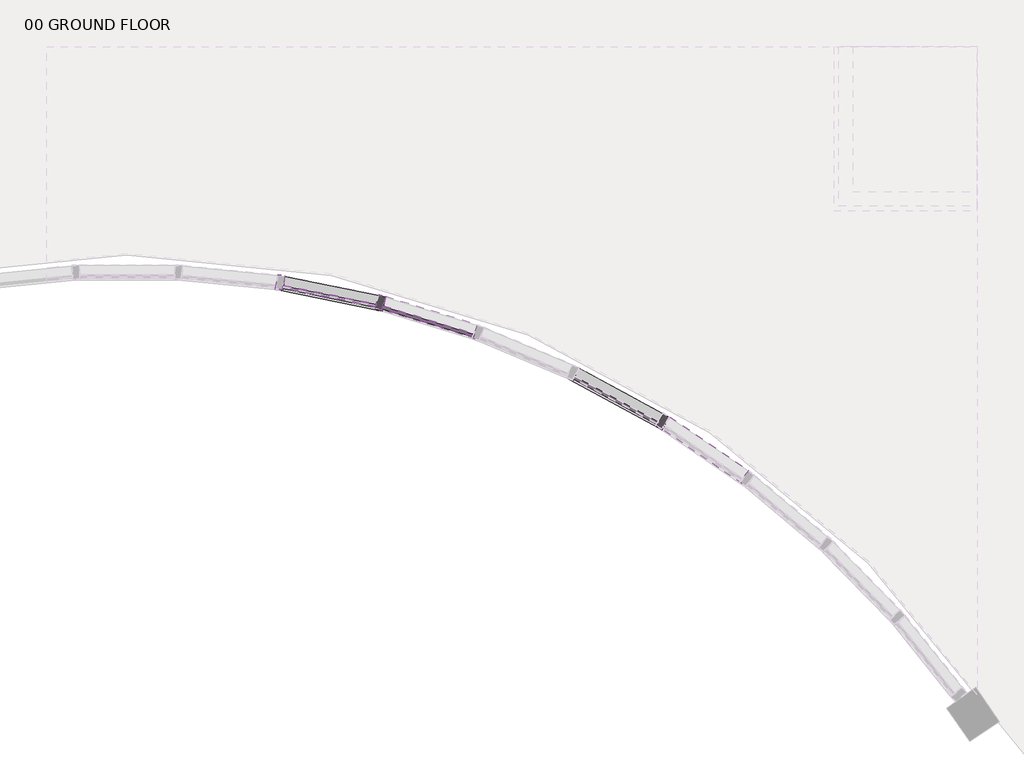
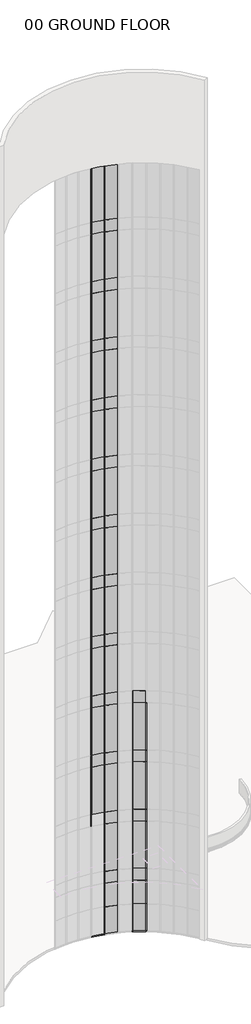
# One storey, part 9 of 33: 60 members, 56 plates.
"""IFC4 building model written with IfcOpenShell, lengths in millimetres."""

from ifc_helpers import new_model, si_unit, origin, place, context, project, spatial, transform, mapped, element, save
from components import member_ab6b85c2, member_7cbddb58, member_d60e8053, member_410c6227, member_810865a4, member_9e61c091, system_panel_su_blue_992d2dbe, system_panel_su_blue_f02faf6b, system_panel_su_blue_144861c6, system_panel_su_blue_654c3fe2, system_panel_su_blue_af244712

model = new_model("IFC4")

# Units and contexts
model_context = context("Model", 3, world=origin())
ifc_project = project(units=[si_unit("LENGTHUNIT", "METRE", prefix="MILLI")], contexts=[model_context])

# Site, building, storey
site = spatial("IfcSite", under=ifc_project)
building = spatial("IfcBuilding", under=site)
storey = spatial("IfcBuildingStorey", under=building, Name="00 GROUND FLOOR", Elevation=0.0)

# Members
placement = place(None, origin())
member_shape = member_ab6b85c2(model_context)
element("IfcMember", 1, ObjectType="Rectangular Mullion : 2.5\" x 5\" rectangular", at=placement, inside=storey, context=model_context, shape_type="MappedRepresentation", body=[
    mapped(member_shape, transform((19795.202262, 2758.2422724, 59436.0), x_axis=(0.0, 0.0, 1.0), y_axis=(0.5622964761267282, 0.8269357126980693, 0.0), z_axis=(-0.8269357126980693, 0.5622964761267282, 0.0))),
])
element("IfcMember", 2, ObjectType="Rectangular Mullion : 2.5\" x 5\" rectangular", at=placement, inside=storey, context=model_context, shape_type="MappedRepresentation", body=[
    mapped(member_shape, transform((17334.5859659, 3803.3208726, 59436.0), x_axis=(0.0, 0.0, 1.0), y_axis=(0.29416346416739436, 0.9557551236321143, 0.0), z_axis=(-0.9557551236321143, 0.29416346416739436, 0.0))),
])
element("IfcMember", 3, ObjectType="Rectangular Mullion : 2.5\" x 5\" rectangular", at=placement, inside=storey, context=model_context, shape_type="MappedRepresentation", body=[
    mapped(member_shape, transform((19741.0478635, 2791.2509673, 0.0), x_axis=(0.0, 0.0, -1.0), y_axis=(0.4773474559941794, 0.878714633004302, 0.0), z_axis=(0.878714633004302, -0.4773474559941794, 0.0))),
])
element("IfcMember", 4, ObjectType="Rectangular Mullion : 2.5\" x 5\" rectangular", at=placement, inside=storey, context=model_context, shape_type="MappedRepresentation", body=[
    mapped(member_shape, transform((17273.11767, 3818.9388564, 0.0), x_axis=(0.0, 0.0, -1.0), y_axis=(0.1977415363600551, 0.9802541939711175, 0.0), z_axis=(0.9802541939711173, -0.19774153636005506, 0.0))),
])
member_2_shape = member_7cbddb58(model_context)
element("IfcMember", 5, ObjectType="Rectangular Mullion : 2.5\" x 5\" rectangular", at=placement, inside=storey, context=model_context, shape_type="MappedRepresentation", body=[
    mapped(member_2_shape, transform((19768.9470531, 2776.0951856, 0.0), x_axis=(-0.8538822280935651, 0.5204662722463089, 0.0), y_axis=(0.5204662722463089, 0.8538822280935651, 0.0), z_axis=(0.0, 0.0, -1.0))),
])
element("IfcMember", 6, ObjectType="Rectangular Mullion : 2.5\" x 5\" rectangular", at=placement, inside=storey, context=model_context, shape_type="MappedRepresentation", body=[
    mapped(member_2_shape, transform((17304.2407407, 3812.6605626, 0.0), x_axis=(-0.9692044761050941, 0.24625735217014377, 0.0), y_axis=(0.24625735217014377, 0.9692044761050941, 0.0), z_axis=(0.0, 0.0, -1.0))),
])
member_3_shape = member_d60e8053(model_context)
element("IfcMember", 7, ObjectType="Rectangular Mullion : 2.5\" x 5\" rectangular", at=placement, inside=storey, context=model_context, shape_type="MappedRepresentation", body=[
    mapped(member_3_shape, transform((19768.9470531, 2776.0951856, 2133.6), x_axis=(-0.8538822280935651, 0.5204662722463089, 0.0), y_axis=(0.5204662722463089, 0.8538822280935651, 0.0), z_axis=(0.0, 0.0, -1.0))),
])
element("IfcMember", 8, ObjectType="Rectangular Mullion : 2.5\" x 5\" rectangular", at=placement, inside=storey, context=model_context, shape_type="MappedRepresentation", body=[
    mapped(member_3_shape, transform((17304.2407407, 3812.6605626, 2133.6), x_axis=(-0.9692044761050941, 0.24625735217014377, 0.0), y_axis=(0.24625735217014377, 0.9692044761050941, 0.0), z_axis=(0.0, 0.0, -1.0))),
])
member_4_shape = member_410c6227(model_context)
element("IfcMember", 9, ObjectType="Rectangular Mullion : 2.5\" x 5\" rectangular", at=placement, inside=storey, context=model_context, shape_type="MappedRepresentation", body=[
    mapped(member_4_shape, transform((19768.9470531, 2776.0951856, 3962.4), x_axis=(-0.8538822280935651, 0.5204662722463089, 0.0), y_axis=(0.5204662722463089, 0.8538822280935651, 0.0), z_axis=(0.0, 0.0, -1.0))),
])
element("IfcMember", 10, ObjectType="Rectangular Mullion : 2.5\" x 5\" rectangular", at=placement, inside=storey, context=model_context, shape_type="MappedRepresentation", body=[
    mapped(member_4_shape, transform((17304.2407407, 3812.6605626, 3962.4), x_axis=(-0.9692044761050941, 0.24625735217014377, 0.0), y_axis=(0.24625735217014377, 0.9692044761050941, 0.0), z_axis=(0.0, 0.0, -1.0))),
])
element("IfcMember", 11, ObjectType="Rectangular Mullion : 2.5\" x 5\" rectangular", at=placement, inside=storey, context=model_context, shape_type="MappedRepresentation", body=[
    mapped(member_4_shape, transform((19768.9470531, 2776.0951856, 8534.4), x_axis=(-0.8538822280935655, 0.5204662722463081, 0.0), y_axis=(0.5204662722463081, 0.8538822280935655, 0.0), z_axis=(0.0, 0.0, -1.0))),
])
element("IfcMember", 12, ObjectType="Rectangular Mullion : 2.5\" x 5\" rectangular", at=placement, inside=storey, context=model_context, shape_type="MappedRepresentation", body=[
    mapped(member_4_shape, transform((17304.2407407, 3812.6605626, 8534.4), x_axis=(-0.9692044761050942, 0.2462573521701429, 0.0), y_axis=(0.2462573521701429, 0.9692044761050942, 0.0), z_axis=(0.0, 0.0, -1.0))),
])
element("IfcMember", 13, ObjectType="Rectangular Mullion : 2.5\" x 5\" rectangular", at=placement, inside=storey, context=model_context, shape_type="MappedRepresentation", body=[
    mapped(member_4_shape, transform((16427.6786042, 3989.4848442, 8534.4), x_axis=(-0.988876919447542, 0.14873613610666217, 0.0), y_axis=(0.14873613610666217, 0.988876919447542, 0.0), z_axis=(0.0, 0.0, -1.0))),
])
element("IfcMember", 14, ObjectType="Rectangular Mullion : 2.5\" x 5\" rectangular", at=placement, inside=storey, context=model_context, shape_type="MappedRepresentation", body=[
    mapped(member_4_shape, transform((19768.9470531, 2776.0951856, 13106.4), x_axis=(-0.8538822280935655, 0.5204662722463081, 0.0), y_axis=(0.5204662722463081, 0.8538822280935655, 0.0), z_axis=(0.0, 0.0, -1.0))),
])
element("IfcMember", 15, ObjectType="Rectangular Mullion : 2.5\" x 5\" rectangular", at=placement, inside=storey, context=model_context, shape_type="MappedRepresentation", body=[
    mapped(member_4_shape, transform((17304.2407407, 3812.6605626, 13106.4), x_axis=(-0.9692044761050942, 0.2462573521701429, 0.0), y_axis=(0.2462573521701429, 0.9692044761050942, 0.0), z_axis=(0.0, 0.0, -1.0))),
])
element("IfcMember", 16, ObjectType="Rectangular Mullion : 2.5\" x 5\" rectangular", at=placement, inside=storey, context=model_context, shape_type="MappedRepresentation", body=[
    mapped(member_4_shape, transform((16427.6786042, 3989.4848442, 13106.4), x_axis=(-0.988876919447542, 0.14873613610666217, 0.0), y_axis=(0.14873613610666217, 0.988876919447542, 0.0), z_axis=(0.0, 0.0, -1.0))),
])
element("IfcMember", 17, ObjectType="Rectangular Mullion : 2.5\" x 5\" rectangular", at=placement, inside=storey, context=model_context, shape_type="MappedRepresentation", body=[
    mapped(member_4_shape, transform((17304.2407407, 3812.6605626, 17678.4), x_axis=(-0.9692044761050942, 0.2462573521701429, 0.0), y_axis=(0.2462573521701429, 0.9692044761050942, 0.0), z_axis=(0.0, 0.0, -1.0))),
])
element("IfcMember", 18, ObjectType="Rectangular Mullion : 2.5\" x 5\" rectangular", at=placement, inside=storey, context=model_context, shape_type="MappedRepresentation", body=[
    mapped(member_4_shape, transform((16427.6786042, 3989.4848442, 17678.4), x_axis=(-0.988876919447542, 0.14873613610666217, 0.0), y_axis=(0.14873613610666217, 0.988876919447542, 0.0), z_axis=(0.0, 0.0, -1.0))),
])
element("IfcMember", 19, ObjectType="Rectangular Mullion : 2.5\" x 5\" rectangular", at=placement, inside=storey, context=model_context, shape_type="MappedRepresentation", body=[
    mapped(member_4_shape, transform((17304.2407407, 3812.6605626, 22250.4), x_axis=(-0.9692044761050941, 0.24625735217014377, 0.0), y_axis=(0.24625735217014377, 0.9692044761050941, 0.0), z_axis=(0.0, 0.0, -1.0))),
])
element("IfcMember", 20, ObjectType="Rectangular Mullion : 2.5\" x 5\" rectangular", at=placement, inside=storey, context=model_context, shape_type="MappedRepresentation", body=[
    mapped(member_4_shape, transform((16427.6786042, 3989.4848442, 22250.4), x_axis=(-0.988876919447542, 0.14873613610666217, 0.0), y_axis=(0.14873613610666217, 0.988876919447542, 0.0), z_axis=(0.0, 0.0, -1.0))),
])
element("IfcMember", 21, ObjectType="Rectangular Mullion : 2.5\" x 5\" rectangular", at=placement, inside=storey, context=model_context, shape_type="MappedRepresentation", body=[
    mapped(member_4_shape, transform((17304.2407407, 3812.6605626, 26822.4), x_axis=(-0.9692044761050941, 0.24625735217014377, 0.0), y_axis=(0.24625735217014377, 0.9692044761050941, 0.0), z_axis=(0.0, 0.0, -1.0))),
])
element("IfcMember", 22, ObjectType="Rectangular Mullion : 2.5\" x 5\" rectangular", at=placement, inside=storey, context=model_context, shape_type="MappedRepresentation", body=[
    mapped(member_4_shape, transform((16427.6786042, 3989.4848442, 26822.4), x_axis=(-0.9888769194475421, 0.1487361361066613, 0.0), y_axis=(0.1487361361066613, 0.9888769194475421, 0.0), z_axis=(0.0, 0.0, -1.0))),
])
element("IfcMember", 23, ObjectType="Rectangular Mullion : 2.5\" x 5\" rectangular", at=placement, inside=storey, context=model_context, shape_type="MappedRepresentation", body=[
    mapped(member_4_shape, transform((17304.2407407, 3812.6605626, 31394.4), x_axis=(-0.9692044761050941, 0.24625735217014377, 0.0), y_axis=(0.24625735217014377, 0.9692044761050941, 0.0), z_axis=(0.0, 0.0, -1.0))),
])
element("IfcMember", 24, ObjectType="Rectangular Mullion : 2.5\" x 5\" rectangular", at=placement, inside=storey, context=model_context, shape_type="MappedRepresentation", body=[
    mapped(member_4_shape, transform((16427.6786042, 3989.4848442, 31394.4), x_axis=(-0.9888769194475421, 0.1487361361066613, 0.0), y_axis=(0.1487361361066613, 0.9888769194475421, 0.0), z_axis=(0.0, 0.0, -1.0))),
])
element("IfcMember", 25, ObjectType="Rectangular Mullion : 2.5\" x 5\" rectangular", at=placement, inside=storey, context=model_context, shape_type="MappedRepresentation", body=[
    mapped(member_4_shape, transform((17304.2407407, 3812.6605626, 35966.4), x_axis=(-0.9692044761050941, 0.24625735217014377, 0.0), y_axis=(0.24625735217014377, 0.9692044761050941, 0.0), z_axis=(0.0, 0.0, -1.0))),
])
element("IfcMember", 26, ObjectType="Rectangular Mullion : 2.5\" x 5\" rectangular", at=placement, inside=storey, context=model_context, shape_type="MappedRepresentation", body=[
    mapped(member_4_shape, transform((16427.6786042, 3989.4848442, 35966.4), x_axis=(-0.9888769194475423, 0.14873613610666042, 0.0), y_axis=(0.14873613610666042, 0.9888769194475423, 0.0), z_axis=(0.0, 0.0, -1.0))),
])
element("IfcMember", 27, ObjectType="Rectangular Mullion : 2.5\" x 5\" rectangular", at=placement, inside=storey, context=model_context, shape_type="MappedRepresentation", body=[
    mapped(member_4_shape, transform((17304.2407407, 3812.6605626, 40538.4), x_axis=(-0.9692044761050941, 0.24625735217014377, 0.0), y_axis=(0.24625735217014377, 0.9692044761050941, 0.0), z_axis=(0.0, 0.0, -1.0))),
])
element("IfcMember", 28, ObjectType="Rectangular Mullion : 2.5\" x 5\" rectangular", at=placement, inside=storey, context=model_context, shape_type="MappedRepresentation", body=[
    mapped(member_4_shape, transform((16427.6786042, 3989.4848442, 40538.4), x_axis=(-0.9888769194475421, 0.1487361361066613, 0.0), y_axis=(0.1487361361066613, 0.9888769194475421, 0.0), z_axis=(0.0, 0.0, -1.0))),
])
element("IfcMember", 29, ObjectType="Rectangular Mullion : 2.5\" x 5\" rectangular", at=placement, inside=storey, context=model_context, shape_type="MappedRepresentation", body=[
    mapped(member_4_shape, transform((17304.2407407, 3812.6605626, 45110.4), x_axis=(-0.9692044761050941, 0.24625735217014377, 0.0), y_axis=(0.24625735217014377, 0.9692044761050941, 0.0), z_axis=(0.0, 0.0, -1.0))),
])
element("IfcMember", 30, ObjectType="Rectangular Mullion : 2.5\" x 5\" rectangular", at=placement, inside=storey, context=model_context, shape_type="MappedRepresentation", body=[
    mapped(member_4_shape, transform((16427.6786042, 3989.4848442, 45110.4), x_axis=(-0.988876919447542, 0.14873613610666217, 0.0), y_axis=(0.14873613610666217, 0.988876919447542, 0.0), z_axis=(0.0, 0.0, -1.0))),
])
element("IfcMember", 31, ObjectType="Rectangular Mullion : 2.5\" x 5\" rectangular", at=placement, inside=storey, context=model_context, shape_type="MappedRepresentation", body=[
    mapped(member_4_shape, transform((17304.2407407, 3812.6605626, 49682.4), x_axis=(-0.9692044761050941, 0.24625735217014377, 0.0), y_axis=(0.24625735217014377, 0.9692044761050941, 0.0), z_axis=(0.0, 0.0, -1.0))),
])
element("IfcMember", 32, ObjectType="Rectangular Mullion : 2.5\" x 5\" rectangular", at=placement, inside=storey, context=model_context, shape_type="MappedRepresentation", body=[
    mapped(member_4_shape, transform((16427.6786042, 3989.4848442, 49682.4), x_axis=(-0.988876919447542, 0.14873613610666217, 0.0), y_axis=(0.14873613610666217, 0.988876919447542, 0.0), z_axis=(0.0, 0.0, -1.0))),
])
element("IfcMember", 33, ObjectType="Rectangular Mullion : 2.5\" x 5\" rectangular", at=placement, inside=storey, context=model_context, shape_type="MappedRepresentation", body=[
    mapped(member_4_shape, transform((17304.2407407, 3812.6605626, 54254.4), x_axis=(-0.9692044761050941, 0.24625735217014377, 0.0), y_axis=(0.24625735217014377, 0.9692044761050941, 0.0), z_axis=(0.0, 0.0, -1.0))),
])
element("IfcMember", 34, ObjectType="Rectangular Mullion : 2.5\" x 5\" rectangular", at=placement, inside=storey, context=model_context, shape_type="MappedRepresentation", body=[
    mapped(member_4_shape, transform((16427.6786042, 3989.4848442, 54254.4), x_axis=(-0.988876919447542, 0.14873613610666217, 0.0), y_axis=(0.14873613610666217, 0.988876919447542, 0.0), z_axis=(0.0, 0.0, -1.0))),
])
member_5_shape = member_810865a4(model_context)
element("IfcMember", 35, ObjectType="Rectangular Mullion : 2.5\" x 5\" rectangular", at=placement, inside=storey, context=model_context, shape_type="MappedRepresentation", body=[
    mapped(member_5_shape, transform((19768.9470531, 2776.0951856, 4876.8), x_axis=(-0.8538822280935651, 0.5204662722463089, 0.0), y_axis=(0.5204662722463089, 0.8538822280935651, 0.0), z_axis=(0.0, 0.0, -1.0))),
])
element("IfcMember", 36, ObjectType="Rectangular Mullion : 2.5\" x 5\" rectangular", at=placement, inside=storey, context=model_context, shape_type="MappedRepresentation", body=[
    mapped(member_5_shape, transform((17304.2407407, 3812.6605626, 4876.8), x_axis=(-0.9692044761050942, 0.2462573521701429, 0.0), y_axis=(0.2462573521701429, 0.9692044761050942, 0.0), z_axis=(0.0, 0.0, -1.0))),
])
element("IfcMember", 37, ObjectType="Rectangular Mullion : 2.5\" x 5\" rectangular", at=placement, inside=storey, context=model_context, shape_type="MappedRepresentation", body=[
    mapped(member_5_shape, transform((19768.9470531, 2776.0951856, 9448.8), x_axis=(-0.8538822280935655, 0.5204662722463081, 0.0), y_axis=(0.5204662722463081, 0.8538822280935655, 0.0), z_axis=(0.0, 0.0, -1.0))),
])
element("IfcMember", 38, ObjectType="Rectangular Mullion : 2.5\" x 5\" rectangular", at=placement, inside=storey, context=model_context, shape_type="MappedRepresentation", body=[
    mapped(member_5_shape, transform((17304.2407407, 3812.6605626, 9448.8), x_axis=(-0.9692044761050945, 0.24625735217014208, 0.0), y_axis=(0.24625735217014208, 0.9692044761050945, 0.0), z_axis=(0.0, 0.0, -1.0))),
])
element("IfcMember", 39, ObjectType="Rectangular Mullion : 2.5\" x 5\" rectangular", at=placement, inside=storey, context=model_context, shape_type="MappedRepresentation", body=[
    mapped(member_5_shape, transform((16427.6786042, 3989.4848442, 9448.8), x_axis=(-0.988876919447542, 0.14873613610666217, 0.0), y_axis=(0.14873613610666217, 0.988876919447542, 0.0), z_axis=(0.0, 0.0, -1.0))),
])
element("IfcMember", 40, ObjectType="Rectangular Mullion : 2.5\" x 5\" rectangular", at=placement, inside=storey, context=model_context, shape_type="MappedRepresentation", body=[
    mapped(member_5_shape, transform((19768.9470531, 2776.0951856, 14020.8), x_axis=(-0.8538822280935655, 0.5204662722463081, 0.0), y_axis=(0.5204662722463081, 0.8538822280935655, 0.0), z_axis=(0.0, 0.0, -1.0))),
])
element("IfcMember", 41, ObjectType="Rectangular Mullion : 2.5\" x 5\" rectangular", at=placement, inside=storey, context=model_context, shape_type="MappedRepresentation", body=[
    mapped(member_5_shape, transform((17304.2407407, 3812.6605626, 14020.8), x_axis=(-0.9692044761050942, 0.2462573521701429, 0.0), y_axis=(0.2462573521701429, 0.9692044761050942, 0.0), z_axis=(0.0, 0.0, -1.0))),
])
element("IfcMember", 42, ObjectType="Rectangular Mullion : 2.5\" x 5\" rectangular", at=placement, inside=storey, context=model_context, shape_type="MappedRepresentation", body=[
    mapped(member_5_shape, transform((16427.6786042, 3989.4848442, 14020.8), x_axis=(-0.988876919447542, 0.14873613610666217, 0.0), y_axis=(0.14873613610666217, 0.988876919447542, 0.0), z_axis=(0.0, 0.0, -1.0))),
])
element("IfcMember", 43, ObjectType="Rectangular Mullion : 2.5\" x 5\" rectangular", at=placement, inside=storey, context=model_context, shape_type="MappedRepresentation", body=[
    mapped(member_5_shape, transform((17304.2407407, 3812.6605626, 18592.8), x_axis=(-0.9692044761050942, 0.2462573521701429, 0.0), y_axis=(0.2462573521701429, 0.9692044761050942, 0.0), z_axis=(0.0, 0.0, -1.0))),
])
element("IfcMember", 44, ObjectType="Rectangular Mullion : 2.5\" x 5\" rectangular", at=placement, inside=storey, context=model_context, shape_type="MappedRepresentation", body=[
    mapped(member_5_shape, transform((16427.6786042, 3989.4848442, 18592.8), x_axis=(-0.988876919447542, 0.14873613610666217, 0.0), y_axis=(0.14873613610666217, 0.988876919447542, 0.0), z_axis=(0.0, 0.0, -1.0))),
])
element("IfcMember", 45, ObjectType="Rectangular Mullion : 2.5\" x 5\" rectangular", at=placement, inside=storey, context=model_context, shape_type="MappedRepresentation", body=[
    mapped(member_5_shape, transform((17304.2407407, 3812.6605626, 23164.8), x_axis=(-0.9692044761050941, 0.24625735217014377, 0.0), y_axis=(0.24625735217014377, 0.9692044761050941, 0.0), z_axis=(0.0, 0.0, -1.0))),
])
element("IfcMember", 46, ObjectType="Rectangular Mullion : 2.5\" x 5\" rectangular", at=placement, inside=storey, context=model_context, shape_type="MappedRepresentation", body=[
    mapped(member_5_shape, transform((16427.6786042, 3989.4848442, 23164.8), x_axis=(-0.9888769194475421, 0.1487361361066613, 0.0), y_axis=(0.1487361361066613, 0.9888769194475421, 0.0), z_axis=(0.0, 0.0, -1.0))),
])
element("IfcMember", 47, ObjectType="Rectangular Mullion : 2.5\" x 5\" rectangular", at=placement, inside=storey, context=model_context, shape_type="MappedRepresentation", body=[
    mapped(member_5_shape, transform((17304.2407407, 3812.6605626, 27736.8), x_axis=(-0.9692044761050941, 0.24625735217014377, 0.0), y_axis=(0.24625735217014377, 0.9692044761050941, 0.0), z_axis=(0.0, 0.0, -1.0))),
])
element("IfcMember", 48, ObjectType="Rectangular Mullion : 2.5\" x 5\" rectangular", at=placement, inside=storey, context=model_context, shape_type="MappedRepresentation", body=[
    mapped(member_5_shape, transform((16427.6786042, 3989.4848442, 27736.8), x_axis=(-0.9888769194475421, 0.1487361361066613, 0.0), y_axis=(0.1487361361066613, 0.9888769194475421, 0.0), z_axis=(0.0, 0.0, -1.0))),
])
element("IfcMember", 49, ObjectType="Rectangular Mullion : 2.5\" x 5\" rectangular", at=placement, inside=storey, context=model_context, shape_type="MappedRepresentation", body=[
    mapped(member_5_shape, transform((17304.2407407, 3812.6605626, 32308.8), x_axis=(-0.9692044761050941, 0.24625735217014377, 0.0), y_axis=(0.24625735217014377, 0.9692044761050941, 0.0), z_axis=(0.0, 0.0, -1.0))),
])
element("IfcMember", 50, ObjectType="Rectangular Mullion : 2.5\" x 5\" rectangular", at=placement, inside=storey, context=model_context, shape_type="MappedRepresentation", body=[
    mapped(member_5_shape, transform((16427.6786042, 3989.4848442, 32308.8), x_axis=(-0.9888769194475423, 0.14873613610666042, 0.0), y_axis=(0.14873613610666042, 0.9888769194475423, 0.0), z_axis=(0.0, 0.0, -1.0))),
])
element("IfcMember", 51, ObjectType="Rectangular Mullion : 2.5\" x 5\" rectangular", at=placement, inside=storey, context=model_context, shape_type="MappedRepresentation", body=[
    mapped(member_5_shape, transform((17304.2407407, 3812.6605626, 36880.8), x_axis=(-0.9692044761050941, 0.24625735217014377, 0.0), y_axis=(0.24625735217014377, 0.9692044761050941, 0.0), z_axis=(0.0, 0.0, -1.0))),
])
element("IfcMember", 52, ObjectType="Rectangular Mullion : 2.5\" x 5\" rectangular", at=placement, inside=storey, context=model_context, shape_type="MappedRepresentation", body=[
    mapped(member_5_shape, transform((16427.6786042, 3989.4848442, 36880.8), x_axis=(-0.9888769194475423, 0.14873613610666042, 0.0), y_axis=(0.14873613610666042, 0.9888769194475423, 0.0), z_axis=(0.0, 0.0, -1.0))),
])
element("IfcMember", 53, ObjectType="Rectangular Mullion : 2.5\" x 5\" rectangular", at=placement, inside=storey, context=model_context, shape_type="MappedRepresentation", body=[
    mapped(member_5_shape, transform((17304.2407407, 3812.6605626, 41452.8), x_axis=(-0.9692044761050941, 0.24625735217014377, 0.0), y_axis=(0.24625735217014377, 0.9692044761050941, 0.0), z_axis=(0.0, 0.0, -1.0))),
])
element("IfcMember", 54, ObjectType="Rectangular Mullion : 2.5\" x 5\" rectangular", at=placement, inside=storey, context=model_context, shape_type="MappedRepresentation", body=[
    mapped(member_5_shape, transform((16427.6786042, 3989.4848442, 41452.8), x_axis=(-0.988876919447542, 0.14873613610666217, 0.0), y_axis=(0.14873613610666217, 0.988876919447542, 0.0), z_axis=(0.0, 0.0, -1.0))),
])
element("IfcMember", 55, ObjectType="Rectangular Mullion : 2.5\" x 5\" rectangular", at=placement, inside=storey, context=model_context, shape_type="MappedRepresentation", body=[
    mapped(member_5_shape, transform((17304.2407407, 3812.6605626, 46024.8), x_axis=(-0.9692044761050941, 0.24625735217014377, 0.0), y_axis=(0.24625735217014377, 0.9692044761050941, 0.0), z_axis=(0.0, 0.0, -1.0))),
])
element("IfcMember", 56, ObjectType="Rectangular Mullion : 2.5\" x 5\" rectangular", at=placement, inside=storey, context=model_context, shape_type="MappedRepresentation", body=[
    mapped(member_5_shape, transform((16427.6786042, 3989.4848442, 46024.8), x_axis=(-0.988876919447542, 0.14873613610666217, 0.0), y_axis=(0.14873613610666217, 0.988876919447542, 0.0), z_axis=(0.0, 0.0, -1.0))),
])
element("IfcMember", 57, ObjectType="Rectangular Mullion : 2.5\" x 5\" rectangular", at=placement, inside=storey, context=model_context, shape_type="MappedRepresentation", body=[
    mapped(member_5_shape, transform((17304.2407407, 3812.6605626, 50596.8), x_axis=(-0.9692044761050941, 0.24625735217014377, 0.0), y_axis=(0.24625735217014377, 0.9692044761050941, 0.0), z_axis=(0.0, 0.0, -1.0))),
])
element("IfcMember", 58, ObjectType="Rectangular Mullion : 2.5\" x 5\" rectangular", at=placement, inside=storey, context=model_context, shape_type="MappedRepresentation", body=[
    mapped(member_5_shape, transform((16427.6786042, 3989.4848442, 50596.8), x_axis=(-0.988876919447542, 0.14873613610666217, 0.0), y_axis=(0.14873613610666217, 0.988876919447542, 0.0), z_axis=(0.0, 0.0, -1.0))),
])
member_6_shape = member_9e61c091(model_context)
element("IfcMember", 59, ObjectType="Rectangular Mullion : 2.5\" x 5\" rectangular", at=placement, inside=storey, context=model_context, shape_type="MappedRepresentation", body=[
    mapped(member_6_shape, transform((17304.2407407, 3812.6605626, 55168.8), x_axis=(-0.9692044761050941, 0.24625735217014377, 0.0), y_axis=(0.24625735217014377, 0.9692044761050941, 0.0), z_axis=(0.0, 0.0, -1.0))),
])
element("IfcMember", 60, ObjectType="Rectangular Mullion : 2.5\" x 5\" rectangular", at=placement, inside=storey, context=model_context, shape_type="MappedRepresentation", body=[
    mapped(member_6_shape, transform((16427.6786042, 3989.4848442, 55168.8), x_axis=(-0.9888769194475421, 0.1487361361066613, 0.0), y_axis=(0.1487361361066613, 0.9888769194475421, 0.0), z_axis=(0.0, 0.0, -1.0))),
])

# Plates
system_panel_su_blue_shape = system_panel_su_blue_992d2dbe(model_context)
element("IfcPlate", 61, ObjectType="System Panel : SU_BLUE", at=placement, inside=storey, context=model_context, shape_type="MappedRepresentation", body=[
    mapped(system_panel_su_blue_shape, transform((19376.0652982, 2989.5218194, 63.5), x_axis=(-0.8787146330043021, 0.47734745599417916, 0.0), y_axis=(-0.47734745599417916, -0.8787146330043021, 0.0), z_axis=(0.0, 0.0, 1.0))),
])
element("IfcPlate", 62, ObjectType="System Panel : SU_BLUE", at=placement, inside=storey, context=model_context, shape_type="MappedRepresentation", body=[
    mapped(system_panel_su_blue_shape, transform((17731.5680392, 3681.1372515, 63.5), x_axis=(-0.9557551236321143, 0.2941634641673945, 0.0), y_axis=(-0.2941634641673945, -0.9557551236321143, 0.0), z_axis=(0.0, 0.0, 1.0))),
])
system_panel_su_blue_2_shape = system_panel_su_blue_f02faf6b(model_context)
element("IfcPlate", 63, ObjectType="System Panel : SU_BLUE", at=placement, inside=storey, context=model_context, shape_type="MappedRepresentation", body=[
    mapped(system_panel_su_blue_2_shape, transform((19376.0652982, 2989.5218194, 2133.6), x_axis=(-0.8787146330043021, 0.47734745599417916, 0.0), y_axis=(-0.47734745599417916, -0.8787146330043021, 0.0), z_axis=(0.0, 0.0, 1.0))),
])
element("IfcPlate", 64, ObjectType="System Panel : SU_BLUE", at=placement, inside=storey, context=model_context, shape_type="MappedRepresentation", body=[
    mapped(system_panel_su_blue_2_shape, transform((17731.5680392, 3681.1372515, 2133.6), x_axis=(-0.9557551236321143, 0.2941634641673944, 0.0), y_axis=(-0.2941634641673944, -0.9557551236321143, 0.0), z_axis=(0.0, 0.0, 1.0))),
])
system_panel_su_blue_3_shape = system_panel_su_blue_144861c6(model_context)
element("IfcPlate", 65, ObjectType="System Panel : SU_BLUE", at=placement, inside=storey, context=model_context, shape_type="MappedRepresentation", body=[
    mapped(system_panel_su_blue_3_shape, transform((19376.0652982, 2989.5218194, 3962.4), x_axis=(-0.8787146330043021, 0.47734745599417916, 0.0), y_axis=(-0.47734745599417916, -0.8787146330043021, 0.0), z_axis=(0.0, 0.0, 1.0))),
])
element("IfcPlate", 66, ObjectType="System Panel : SU_BLUE", at=placement, inside=storey, context=model_context, shape_type="MappedRepresentation", body=[
    mapped(system_panel_su_blue_3_shape, transform((17731.5680392, 3681.1372515, 3962.4), x_axis=(-0.9557551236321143, 0.2941634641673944, 0.0), y_axis=(-0.2941634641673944, -0.9557551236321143, 0.0), z_axis=(0.0, 0.0, 1.0))),
])
element("IfcPlate", 67, ObjectType="System Panel : SU_BLUE", at=placement, inside=storey, context=model_context, shape_type="MappedRepresentation", body=[
    mapped(system_panel_su_blue_3_shape, transform((19376.0652982, 2989.5218194, 8534.4), x_axis=(-0.8787146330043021, 0.47734745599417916, 0.0), y_axis=(-0.47734745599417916, -0.8787146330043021, 0.0), z_axis=(0.0, 0.0, 1.0))),
])
element("IfcPlate", 68, ObjectType="System Panel : SU_BLUE", at=placement, inside=storey, context=model_context, shape_type="MappedRepresentation", body=[
    mapped(system_panel_su_blue_3_shape, transform((17731.5680392, 3681.1372515, 8534.4), x_axis=(-0.9557551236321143, 0.2941634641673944, 0.0), y_axis=(-0.2941634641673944, -0.9557551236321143, 0.0), z_axis=(0.0, 0.0, 1.0))),
])
element("IfcPlate", 69, ObjectType="System Panel : SU_BLUE", at=placement, inside=storey, context=model_context, shape_type="MappedRepresentation", body=[
    mapped(system_panel_su_blue_3_shape, transform((19376.0652982, 2989.5218194, 13106.4), x_axis=(-0.8787146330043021, 0.47734745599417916, 0.0), y_axis=(-0.47734745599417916, -0.8787146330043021, 0.0), z_axis=(0.0, 0.0, 1.0))),
])
element("IfcPlate", 70, ObjectType="System Panel : SU_BLUE", at=placement, inside=storey, context=model_context, shape_type="MappedRepresentation", body=[
    mapped(system_panel_su_blue_3_shape, transform((17731.5680392, 3681.1372515, 13106.4), x_axis=(-0.9557551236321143, 0.2941634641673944, 0.0), y_axis=(-0.2941634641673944, -0.9557551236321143, 0.0), z_axis=(0.0, 0.0, 1.0))),
])
element("IfcPlate", 71, ObjectType="System Panel : SU_BLUE", at=placement, inside=storey, context=model_context, shape_type="MappedRepresentation", body=[
    mapped(system_panel_su_blue_3_shape, transform((16865.9596724, 3901.0727034, 13106.4), x_axis=(-0.9802541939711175, 0.19774153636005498, 0.0), y_axis=(-0.19774153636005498, -0.9802541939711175, 0.0), z_axis=(0.0, 0.0, 1.0))),
])
element("IfcPlate", 72, ObjectType="System Panel : SU_BLUE", at=placement, inside=storey, context=model_context, shape_type="MappedRepresentation", body=[
    mapped(system_panel_su_blue_3_shape, transform((19376.0652982, 2989.5218194, 17678.4), x_axis=(-0.8787146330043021, 0.47734745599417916, 0.0), y_axis=(-0.47734745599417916, -0.8787146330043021, 0.0), z_axis=(0.0, 0.0, 1.0))),
])
element("IfcPlate", 73, ObjectType="System Panel : SU_BLUE", at=placement, inside=storey, context=model_context, shape_type="MappedRepresentation", body=[
    mapped(system_panel_su_blue_3_shape, transform((17731.5680392, 3681.1372515, 17678.4), x_axis=(-0.9557551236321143, 0.2941634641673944, 0.0), y_axis=(-0.2941634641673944, -0.9557551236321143, 0.0), z_axis=(0.0, 0.0, 1.0))),
])
element("IfcPlate", 74, ObjectType="System Panel : SU_BLUE", at=placement, inside=storey, context=model_context, shape_type="MappedRepresentation", body=[
    mapped(system_panel_su_blue_3_shape, transform((16865.9596724, 3901.0727034, 17678.4), x_axis=(-0.9802541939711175, 0.19774153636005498, 0.0), y_axis=(-0.19774153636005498, -0.9802541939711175, 0.0), z_axis=(0.0, 0.0, 1.0))),
])
element("IfcPlate", 75, ObjectType="System Panel : SU_BLUE", at=placement, inside=storey, context=model_context, shape_type="MappedRepresentation", body=[
    mapped(system_panel_su_blue_3_shape, transform((17731.5680392, 3681.1372515, 22250.4), x_axis=(-0.9557551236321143, 0.2941634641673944, 0.0), y_axis=(-0.2941634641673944, -0.9557551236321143, 0.0), z_axis=(0.0, 0.0, 1.0))),
])
element("IfcPlate", 76, ObjectType="System Panel : SU_BLUE", at=placement, inside=storey, context=model_context, shape_type="MappedRepresentation", body=[
    mapped(system_panel_su_blue_3_shape, transform((16865.9596724, 3901.0727034, 22250.4), x_axis=(-0.9802541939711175, 0.19774153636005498, 0.0), y_axis=(-0.19774153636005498, -0.9802541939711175, 0.0), z_axis=(0.0, 0.0, 1.0))),
])
element("IfcPlate", 77, ObjectType="System Panel : SU_BLUE", at=placement, inside=storey, context=model_context, shape_type="MappedRepresentation", body=[
    mapped(system_panel_su_blue_3_shape, transform((17731.5680392, 3681.1372515, 26822.4), x_axis=(-0.9557551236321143, 0.2941634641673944, 0.0), y_axis=(-0.2941634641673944, -0.9557551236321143, 0.0), z_axis=(0.0, 0.0, 1.0))),
])
element("IfcPlate", 78, ObjectType="System Panel : SU_BLUE", at=placement, inside=storey, context=model_context, shape_type="MappedRepresentation", body=[
    mapped(system_panel_su_blue_3_shape, transform((16865.9596724, 3901.0727034, 26822.4), x_axis=(-0.9802541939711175, 0.19774153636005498, 0.0), y_axis=(-0.19774153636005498, -0.9802541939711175, 0.0), z_axis=(0.0, 0.0, 1.0))),
])
element("IfcPlate", 79, ObjectType="System Panel : SU_BLUE", at=placement, inside=storey, context=model_context, shape_type="MappedRepresentation", body=[
    mapped(system_panel_su_blue_3_shape, transform((17731.5680392, 3681.1372515, 31394.4), x_axis=(-0.9557551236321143, 0.2941634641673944, 0.0), y_axis=(-0.2941634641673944, -0.9557551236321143, 0.0), z_axis=(0.0, 0.0, 1.0))),
])
element("IfcPlate", 80, ObjectType="System Panel : SU_BLUE", at=placement, inside=storey, context=model_context, shape_type="MappedRepresentation", body=[
    mapped(system_panel_su_blue_3_shape, transform((16865.9596724, 3901.0727034, 31394.4), x_axis=(-0.9802541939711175, 0.19774153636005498, 0.0), y_axis=(-0.19774153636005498, -0.9802541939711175, 0.0), z_axis=(0.0, 0.0, 1.0))),
])
element("IfcPlate", 81, ObjectType="System Panel : SU_BLUE", at=placement, inside=storey, context=model_context, shape_type="MappedRepresentation", body=[
    mapped(system_panel_su_blue_3_shape, transform((17731.5680392, 3681.1372515, 35966.4), x_axis=(-0.9557551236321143, 0.2941634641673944, 0.0), y_axis=(-0.2941634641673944, -0.9557551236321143, 0.0), z_axis=(0.0, 0.0, 1.0))),
])
element("IfcPlate", 82, ObjectType="System Panel : SU_BLUE", at=placement, inside=storey, context=model_context, shape_type="MappedRepresentation", body=[
    mapped(system_panel_su_blue_3_shape, transform((16865.9596724, 3901.0727034, 35966.4), x_axis=(-0.9802541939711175, 0.19774153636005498, 0.0), y_axis=(-0.19774153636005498, -0.9802541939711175, 0.0), z_axis=(0.0, 0.0, 1.0))),
])
element("IfcPlate", 83, ObjectType="System Panel : SU_BLUE", at=placement, inside=storey, context=model_context, shape_type="MappedRepresentation", body=[
    mapped(system_panel_su_blue_3_shape, transform((17731.5680392, 3681.1372515, 40538.4), x_axis=(-0.9557551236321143, 0.2941634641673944, 0.0), y_axis=(-0.2941634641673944, -0.9557551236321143, 0.0), z_axis=(0.0, 0.0, 1.0))),
])
element("IfcPlate", 84, ObjectType="System Panel : SU_BLUE", at=placement, inside=storey, context=model_context, shape_type="MappedRepresentation", body=[
    mapped(system_panel_su_blue_3_shape, transform((16865.9596724, 3901.0727034, 40538.4), x_axis=(-0.9802541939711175, 0.19774153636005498, 0.0), y_axis=(-0.19774153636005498, -0.9802541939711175, 0.0), z_axis=(0.0, 0.0, 1.0))),
])
element("IfcPlate", 85, ObjectType="System Panel : SU_BLUE", at=placement, inside=storey, context=model_context, shape_type="MappedRepresentation", body=[
    mapped(system_panel_su_blue_3_shape, transform((17731.5680392, 3681.1372515, 45110.4), x_axis=(-0.9557551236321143, 0.2941634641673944, 0.0), y_axis=(-0.2941634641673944, -0.9557551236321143, 0.0), z_axis=(0.0, 0.0, 1.0))),
])
element("IfcPlate", 86, ObjectType="System Panel : SU_BLUE", at=placement, inside=storey, context=model_context, shape_type="MappedRepresentation", body=[
    mapped(system_panel_su_blue_3_shape, transform((16865.9596724, 3901.0727034, 45110.4), x_axis=(-0.9802541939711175, 0.19774153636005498, 0.0), y_axis=(-0.19774153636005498, -0.9802541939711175, 0.0), z_axis=(0.0, 0.0, 1.0))),
])
element("IfcPlate", 87, ObjectType="System Panel : SU_BLUE", at=placement, inside=storey, context=model_context, shape_type="MappedRepresentation", body=[
    mapped(system_panel_su_blue_3_shape, transform((17731.5680392, 3681.1372515, 49682.4), x_axis=(-0.9557551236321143, 0.2941634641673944, 0.0), y_axis=(-0.2941634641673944, -0.9557551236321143, 0.0), z_axis=(0.0, 0.0, 1.0))),
])
element("IfcPlate", 88, ObjectType="System Panel : SU_BLUE", at=placement, inside=storey, context=model_context, shape_type="MappedRepresentation", body=[
    mapped(system_panel_su_blue_3_shape, transform((16865.9596724, 3901.0727034, 49682.4), x_axis=(-0.9802541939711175, 0.19774153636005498, 0.0), y_axis=(-0.19774153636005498, -0.9802541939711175, 0.0), z_axis=(0.0, 0.0, 1.0))),
])
element("IfcPlate", 89, ObjectType="System Panel : SU_BLUE", at=placement, inside=storey, context=model_context, shape_type="MappedRepresentation", body=[
    mapped(system_panel_su_blue_3_shape, transform((17731.5680392, 3681.1372515, 54254.4), x_axis=(-0.9557551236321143, 0.2941634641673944, 0.0), y_axis=(-0.2941634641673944, -0.9557551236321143, 0.0), z_axis=(0.0, 0.0, 1.0))),
])
element("IfcPlate", 90, ObjectType="System Panel : SU_BLUE", at=placement, inside=storey, context=model_context, shape_type="MappedRepresentation", body=[
    mapped(system_panel_su_blue_3_shape, transform((16865.9596724, 3901.0727034, 54254.4), x_axis=(-0.9802541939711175, 0.19774153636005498, 0.0), y_axis=(-0.19774153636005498, -0.9802541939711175, 0.0), z_axis=(0.0, 0.0, 1.0))),
])
system_panel_su_blue_4_shape = system_panel_su_blue_654c3fe2(model_context)
element("IfcPlate", 91, ObjectType="System Panel : SU_BLUE", at=placement, inside=storey, context=model_context, shape_type="MappedRepresentation", body=[
    mapped(system_panel_su_blue_4_shape, transform((19376.0652982, 2989.5218194, 4876.8), x_axis=(-0.8787146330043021, 0.47734745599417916, 0.0), y_axis=(-0.47734745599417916, -0.8787146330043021, 0.0), z_axis=(0.0, 0.0, 1.0))),
])
element("IfcPlate", 92, ObjectType="System Panel : SU_BLUE", at=placement, inside=storey, context=model_context, shape_type="MappedRepresentation", body=[
    mapped(system_panel_su_blue_4_shape, transform((17731.5680392, 3681.1372515, 4876.8), x_axis=(-0.9557551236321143, 0.2941634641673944, 0.0), y_axis=(-0.2941634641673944, -0.9557551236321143, 0.0), z_axis=(0.0, 0.0, 1.0))),
])
element("IfcPlate", 93, ObjectType="System Panel : SU_BLUE", at=placement, inside=storey, context=model_context, shape_type="MappedRepresentation", body=[
    mapped(system_panel_su_blue_4_shape, transform((19376.0652982, 2989.5218194, 9448.8), x_axis=(-0.8787146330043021, 0.47734745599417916, 0.0), y_axis=(-0.47734745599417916, -0.8787146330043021, 0.0), z_axis=(0.0, 0.0, 1.0))),
])
element("IfcPlate", 94, ObjectType="System Panel : SU_BLUE", at=placement, inside=storey, context=model_context, shape_type="MappedRepresentation", body=[
    mapped(system_panel_su_blue_4_shape, transform((17731.5680392, 3681.1372515, 9448.8), x_axis=(-0.9557551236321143, 0.2941634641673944, 0.0), y_axis=(-0.2941634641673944, -0.9557551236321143, 0.0), z_axis=(0.0, 0.0, 1.0))),
])
element("IfcPlate", 95, ObjectType="System Panel : SU_BLUE", at=placement, inside=storey, context=model_context, shape_type="MappedRepresentation", body=[
    mapped(system_panel_su_blue_4_shape, transform((16865.9596724, 3901.0727034, 9448.8), x_axis=(-0.9802541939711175, 0.19774153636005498, 0.0), y_axis=(-0.19774153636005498, -0.9802541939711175, 0.0), z_axis=(0.0, 0.0, 1.0))),
])
element("IfcPlate", 96, ObjectType="System Panel : SU_BLUE", at=placement, inside=storey, context=model_context, shape_type="MappedRepresentation", body=[
    mapped(system_panel_su_blue_4_shape, transform((19376.0652982, 2989.5218194, 14020.8), x_axis=(-0.8787146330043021, 0.47734745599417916, 0.0), y_axis=(-0.47734745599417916, -0.8787146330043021, 0.0), z_axis=(0.0, 0.0, 1.0))),
])
element("IfcPlate", 97, ObjectType="System Panel : SU_BLUE", at=placement, inside=storey, context=model_context, shape_type="MappedRepresentation", body=[
    mapped(system_panel_su_blue_4_shape, transform((17731.5680392, 3681.1372515, 14020.8), x_axis=(-0.9557551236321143, 0.2941634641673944, 0.0), y_axis=(-0.2941634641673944, -0.9557551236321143, 0.0), z_axis=(0.0, 0.0, 1.0))),
])
element("IfcPlate", 98, ObjectType="System Panel : SU_BLUE", at=placement, inside=storey, context=model_context, shape_type="MappedRepresentation", body=[
    mapped(system_panel_su_blue_4_shape, transform((16865.9596724, 3901.0727034, 14020.8), x_axis=(-0.9802541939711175, 0.19774153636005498, 0.0), y_axis=(-0.19774153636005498, -0.9802541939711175, 0.0), z_axis=(0.0, 0.0, 1.0))),
])
element("IfcPlate", 99, ObjectType="System Panel : SU_BLUE", at=placement, inside=storey, context=model_context, shape_type="MappedRepresentation", body=[
    mapped(system_panel_su_blue_4_shape, transform((17731.5680392, 3681.1372515, 18592.8), x_axis=(-0.9557551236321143, 0.2941634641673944, 0.0), y_axis=(-0.2941634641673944, -0.9557551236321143, 0.0), z_axis=(0.0, 0.0, 1.0))),
])
element("IfcPlate", 100, ObjectType="System Panel : SU_BLUE", at=placement, inside=storey, context=model_context, shape_type="MappedRepresentation", body=[
    mapped(system_panel_su_blue_4_shape, transform((16865.9596724, 3901.0727034, 18592.8), x_axis=(-0.9802541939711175, 0.19774153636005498, 0.0), y_axis=(-0.19774153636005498, -0.9802541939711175, 0.0), z_axis=(0.0, 0.0, 1.0))),
])
element("IfcPlate", 101, ObjectType="System Panel : SU_BLUE", at=placement, inside=storey, context=model_context, shape_type="MappedRepresentation", body=[
    mapped(system_panel_su_blue_4_shape, transform((17731.5680392, 3681.1372515, 23164.8), x_axis=(-0.9557551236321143, 0.2941634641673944, 0.0), y_axis=(-0.2941634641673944, -0.9557551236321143, 0.0), z_axis=(0.0, 0.0, 1.0))),
])
element("IfcPlate", 102, ObjectType="System Panel : SU_BLUE", at=placement, inside=storey, context=model_context, shape_type="MappedRepresentation", body=[
    mapped(system_panel_su_blue_4_shape, transform((16865.9596724, 3901.0727034, 23164.8), x_axis=(-0.9802541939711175, 0.19774153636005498, 0.0), y_axis=(-0.19774153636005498, -0.9802541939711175, 0.0), z_axis=(0.0, 0.0, 1.0))),
])
element("IfcPlate", 103, ObjectType="System Panel : SU_BLUE", at=placement, inside=storey, context=model_context, shape_type="MappedRepresentation", body=[
    mapped(system_panel_su_blue_4_shape, transform((17731.5680392, 3681.1372515, 27736.8), x_axis=(-0.9557551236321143, 0.2941634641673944, 0.0), y_axis=(-0.2941634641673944, -0.9557551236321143, 0.0), z_axis=(0.0, 0.0, 1.0))),
])
element("IfcPlate", 104, ObjectType="System Panel : SU_BLUE", at=placement, inside=storey, context=model_context, shape_type="MappedRepresentation", body=[
    mapped(system_panel_su_blue_4_shape, transform((16865.9596724, 3901.0727034, 27736.8), x_axis=(-0.9802541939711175, 0.19774153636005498, 0.0), y_axis=(-0.19774153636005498, -0.9802541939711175, 0.0), z_axis=(0.0, 0.0, 1.0))),
])
element("IfcPlate", 105, ObjectType="System Panel : SU_BLUE", at=placement, inside=storey, context=model_context, shape_type="MappedRepresentation", body=[
    mapped(system_panel_su_blue_4_shape, transform((17731.5680392, 3681.1372515, 32308.8), x_axis=(-0.9557551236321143, 0.2941634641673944, 0.0), y_axis=(-0.2941634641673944, -0.9557551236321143, 0.0), z_axis=(0.0, 0.0, 1.0))),
])
element("IfcPlate", 106, ObjectType="System Panel : SU_BLUE", at=placement, inside=storey, context=model_context, shape_type="MappedRepresentation", body=[
    mapped(system_panel_su_blue_4_shape, transform((16865.9596724, 3901.0727034, 32308.8), x_axis=(-0.9802541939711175, 0.19774153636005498, 0.0), y_axis=(-0.19774153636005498, -0.9802541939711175, 0.0), z_axis=(0.0, 0.0, 1.0))),
])
element("IfcPlate", 107, ObjectType="System Panel : SU_BLUE", at=placement, inside=storey, context=model_context, shape_type="MappedRepresentation", body=[
    mapped(system_panel_su_blue_4_shape, transform((17731.5680392, 3681.1372515, 36880.8), x_axis=(-0.9557551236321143, 0.2941634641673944, 0.0), y_axis=(-0.2941634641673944, -0.9557551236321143, 0.0), z_axis=(0.0, 0.0, 1.0))),
])
element("IfcPlate", 108, ObjectType="System Panel : SU_BLUE", at=placement, inside=storey, context=model_context, shape_type="MappedRepresentation", body=[
    mapped(system_panel_su_blue_4_shape, transform((16865.9596724, 3901.0727034, 36880.8), x_axis=(-0.9802541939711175, 0.19774153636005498, 0.0), y_axis=(-0.19774153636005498, -0.9802541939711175, 0.0), z_axis=(0.0, 0.0, 1.0))),
])
element("IfcPlate", 109, ObjectType="System Panel : SU_BLUE", at=placement, inside=storey, context=model_context, shape_type="MappedRepresentation", body=[
    mapped(system_panel_su_blue_4_shape, transform((17731.5680392, 3681.1372515, 41452.8), x_axis=(-0.9557551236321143, 0.2941634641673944, 0.0), y_axis=(-0.2941634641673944, -0.9557551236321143, 0.0), z_axis=(0.0, 0.0, 1.0))),
])
element("IfcPlate", 110, ObjectType="System Panel : SU_BLUE", at=placement, inside=storey, context=model_context, shape_type="MappedRepresentation", body=[
    mapped(system_panel_su_blue_4_shape, transform((16865.9596724, 3901.0727034, 41452.8), x_axis=(-0.9802541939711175, 0.19774153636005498, 0.0), y_axis=(-0.19774153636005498, -0.9802541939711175, 0.0), z_axis=(0.0, 0.0, 1.0))),
])
element("IfcPlate", 111, ObjectType="System Panel : SU_BLUE", at=placement, inside=storey, context=model_context, shape_type="MappedRepresentation", body=[
    mapped(system_panel_su_blue_4_shape, transform((17731.5680392, 3681.1372515, 46024.8), x_axis=(-0.9557551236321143, 0.2941634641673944, 0.0), y_axis=(-0.2941634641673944, -0.9557551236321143, 0.0), z_axis=(0.0, 0.0, 1.0))),
])
element("IfcPlate", 112, ObjectType="System Panel : SU_BLUE", at=placement, inside=storey, context=model_context, shape_type="MappedRepresentation", body=[
    mapped(system_panel_su_blue_4_shape, transform((16865.9596724, 3901.0727034, 46024.8), x_axis=(-0.9802541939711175, 0.19774153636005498, 0.0), y_axis=(-0.19774153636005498, -0.9802541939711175, 0.0), z_axis=(0.0, 0.0, 1.0))),
])
element("IfcPlate", 113, ObjectType="System Panel : SU_BLUE", at=placement, inside=storey, context=model_context, shape_type="MappedRepresentation", body=[
    mapped(system_panel_su_blue_4_shape, transform((17731.5680392, 3681.1372515, 50596.8), x_axis=(-0.9557551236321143, 0.2941634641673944, 0.0), y_axis=(-0.2941634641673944, -0.9557551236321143, 0.0), z_axis=(0.0, 0.0, 1.0))),
])
element("IfcPlate", 114, ObjectType="System Panel : SU_BLUE", at=placement, inside=storey, context=model_context, shape_type="MappedRepresentation", body=[
    mapped(system_panel_su_blue_4_shape, transform((16865.9596724, 3901.0727034, 50596.8), x_axis=(-0.9802541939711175, 0.19774153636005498, 0.0), y_axis=(-0.19774153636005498, -0.9802541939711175, 0.0), z_axis=(0.0, 0.0, 1.0))),
])
system_panel_su_blue_5_shape = system_panel_su_blue_af244712(model_context)
element("IfcPlate", 115, ObjectType="System Panel : SU_BLUE", at=placement, inside=storey, context=model_context, shape_type="MappedRepresentation", body=[
    mapped(system_panel_su_blue_5_shape, transform((17731.5680392, 3681.1372515, 55168.8), x_axis=(-0.9557551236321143, 0.2941634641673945, 0.0), y_axis=(-0.2941634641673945, -0.9557551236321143, 0.0), z_axis=(0.0, 0.0, 1.0))),
])
element("IfcPlate", 116, ObjectType="System Panel : SU_BLUE", at=placement, inside=storey, context=model_context, shape_type="MappedRepresentation", body=[
    mapped(system_panel_su_blue_5_shape, transform((16865.9596724, 3901.0727034, 55168.8), x_axis=(-0.9802541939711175, 0.19774153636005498, 0.0), y_axis=(-0.19774153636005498, -0.9802541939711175, 0.0), z_axis=(0.0, 0.0, 1.0))),
])

save(model, "model.ifc")
